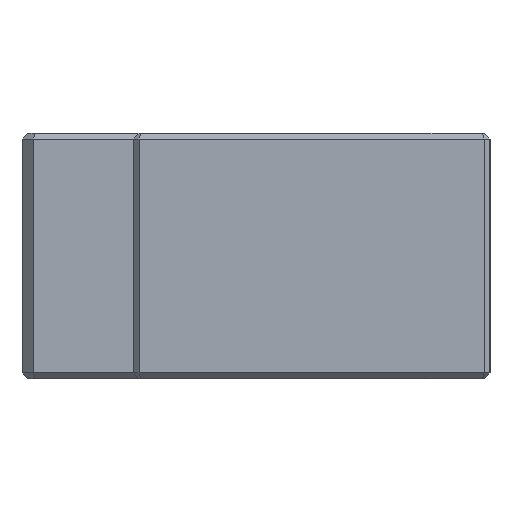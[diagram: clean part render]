
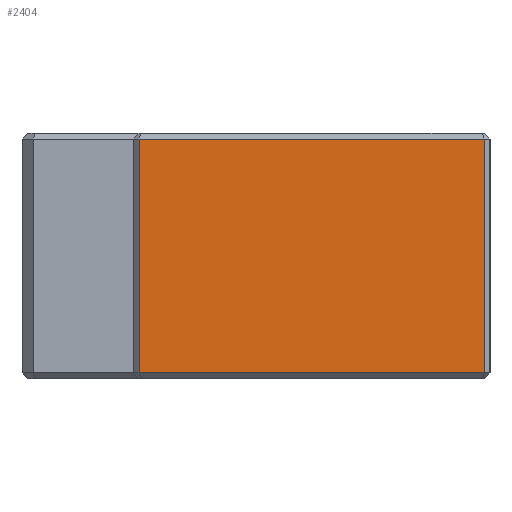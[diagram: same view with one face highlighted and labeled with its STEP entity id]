
A CAD part, left-side view. The second image highlights one B-rep face of the part: STEP entity #2404.
In plain terms, the highlighted planar face has unit normal (-1, 0, 0).
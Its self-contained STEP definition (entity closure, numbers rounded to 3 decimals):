
#13 = LINE ( 'NONE', #456, #2947 ) ;
#14 = LINE ( 'NONE', #1778, #770 ) ;
#70 = VERTEX_POINT ( 'NONE', #2744 ) ;
#118 = CARTESIAN_POINT ( 'NONE',  ( 0., 31.5, 22. ) ) ;
#290 = EDGE_CURVE ( 'NONE', #1482, #70, #14, .T. ) ;
#301 = DIRECTION ( 'NONE',  ( 1., 0., 0. ) ) ;
#456 = CARTESIAN_POINT ( 'NONE',  ( 0., 0.5, 0.5 ) ) ;
#665 = ORIENTED_EDGE ( 'NONE', *, *, #2904, .T. ) ;
#728 = DIRECTION ( 'NONE',  ( 0., 1., 0. ) ) ;
#750 = DIRECTION ( 'NONE',  ( 0., -1., 0. ) ) ;
#770 = VECTOR ( 'NONE', #2397, 1000. ) ;
#1000 = CARTESIAN_POINT ( 'NONE',  ( 0., 0., 21.5 ) ) ;
#1229 = VERTEX_POINT ( 'NONE', #2680 ) ;
#1332 = DIRECTION ( 'NONE',  ( 0., 0., -1. ) ) ;
#1418 = CARTESIAN_POINT ( 'NONE',  ( 0., 0.5, 0.5 ) ) ;
#1470 = EDGE_LOOP ( 'NONE', ( #665, #2484, #2230, #3277 ) ) ;
#1482 = VERTEX_POINT ( 'NONE', #1418 ) ;
#1676 = LINE ( 'NONE', #118, #2442 ) ;
#1701 = DIRECTION ( 'NONE',  ( 0., 0., -1. ) ) ;
#1778 = CARTESIAN_POINT ( 'NONE',  ( 0., 0.5, 22. ) ) ;
#2177 = LINE ( 'NONE', #1000, #3518 ) ;
#2230 = ORIENTED_EDGE ( 'NONE', *, *, #290, .T. ) ;
#2338 = VERTEX_POINT ( 'NONE', #3372 ) ;
#2397 = DIRECTION ( 'NONE',  ( 0., 0., 1. ) ) ;
#2404 = ADVANCED_FACE ( 'NONE', ( #2546 ), #3405, .F. ) ;
#2442 = VECTOR ( 'NONE', #1332, 1000. ) ;
#2484 = ORIENTED_EDGE ( 'NONE', *, *, #2494, .T. ) ;
#2494 = EDGE_CURVE ( 'NONE', #2338, #1482, #13, .T. ) ;
#2511 = EDGE_CURVE ( 'NONE', #70, #1229, #2177, .T. ) ;
#2546 = FACE_OUTER_BOUND ( 'NONE', #1470, .T. ) ;
#2566 = AXIS2_PLACEMENT_3D ( 'NONE', #2570, #301, #1701 ) ;
#2570 = CARTESIAN_POINT ( 'NONE',  ( 0., 0., 22. ) ) ;
#2680 = CARTESIAN_POINT ( 'NONE',  ( 0., 31.5, 21.5 ) ) ;
#2744 = CARTESIAN_POINT ( 'NONE',  ( 0., 0.5, 21.5 ) ) ;
#2904 = EDGE_CURVE ( 'NONE', #1229, #2338, #1676, .T. ) ;
#2947 = VECTOR ( 'NONE', #750, 1000. ) ;
#3277 = ORIENTED_EDGE ( 'NONE', *, *, #2511, .T. ) ;
#3372 = CARTESIAN_POINT ( 'NONE',  ( 0., 31.5, 0.5 ) ) ;
#3405 = PLANE ( 'NONE',  #2566 ) ;
#3518 = VECTOR ( 'NONE', #728, 1000. ) ;
